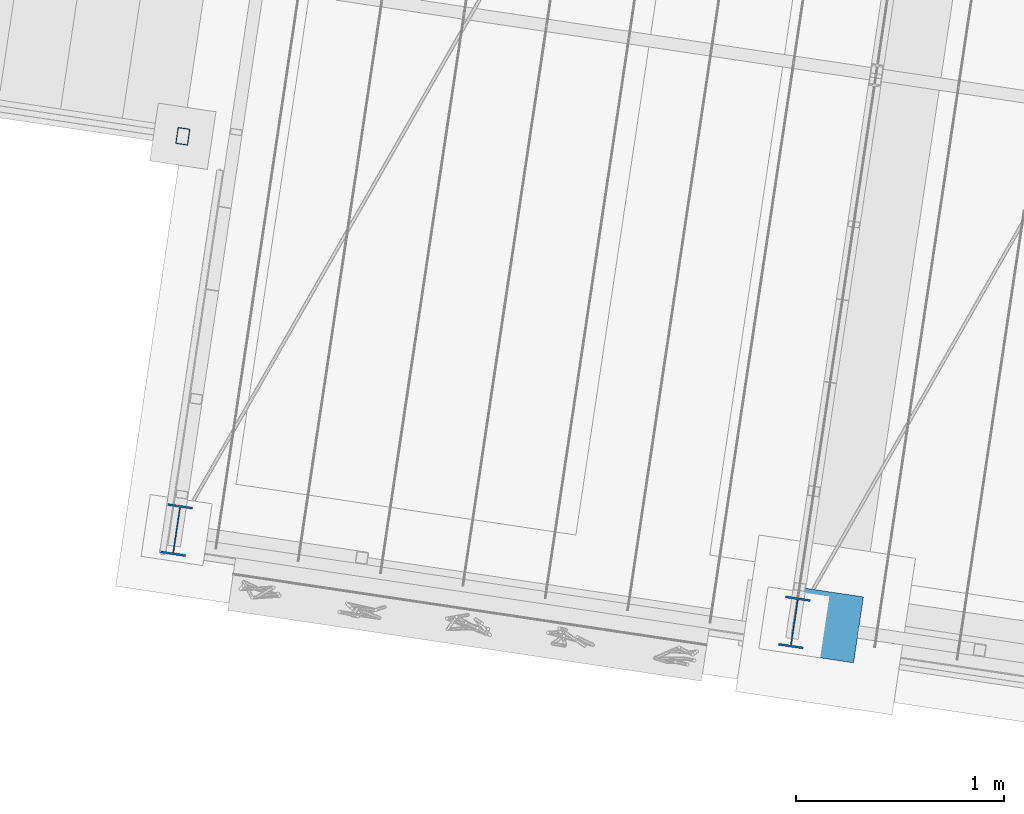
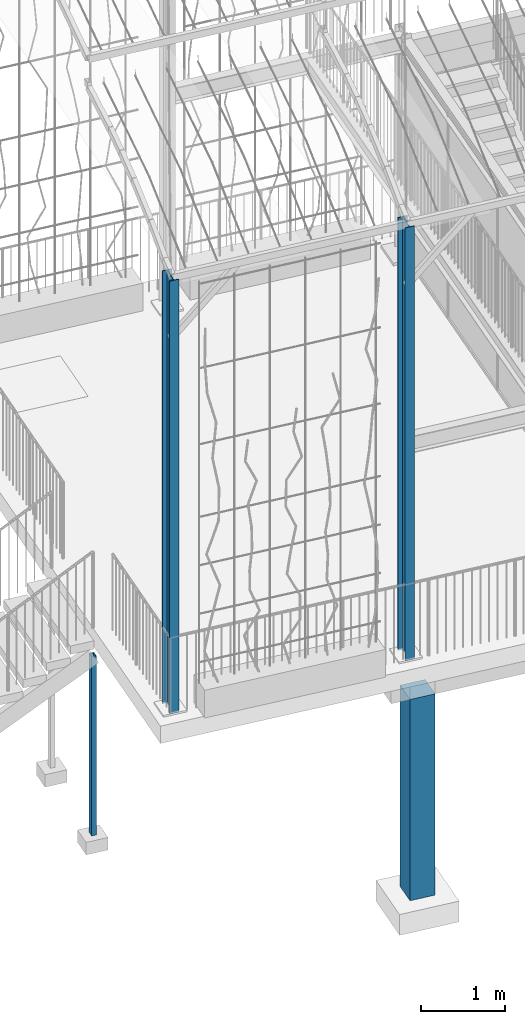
# One storey, part 2 of 143: 4 columns, 3 elements without a shape of their own.
"""IFC4 building model written with IfcOpenShell, lengths in metres."""

from ifc_helpers import new_model, si_unit, direction, frame, origin_with_axes, place, context, subcontext, project, spatial, polyline, hollow_rectangle, i_section, outline, extrude, material, material_profile, profile_set, profile_usage, type_object, element, aggregate, save


model = new_model("IFC4")

# Units and contexts
model_context = context("Model", 3, precision=1e-05, world=origin_with_axes(), true_north=direction((0.0, 1.0)))
body_context = subcontext(model_context, "Body", "Model", "MODEL_VIEW")
ifc_project = project(units=[si_unit("VOLUMEUNIT", "CUBIC_METRE"), si_unit("LENGTHUNIT", "METRE"), si_unit("AREAUNIT", "SQUARE_METRE")], contexts=[model_context])

# Site, building, storey
site_placement = place(None, origin_with_axes())
site = spatial("IfcSite", under=ifc_project, at=site_placement, Name="Lares · Rua das Mercês · artigo 4771")
building_placement = place(site_placement, frame((15.0, 9.7, 15.8), z_axis=(0.0, 0.0, 1.0), x_axis=(0.989015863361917, -0.147809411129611, 0.0)))
building = spatial("IfcBuilding", under=site, at=building_placement, Name="Casa Sobreposta")
storey_placement = place(building_placement, origin_with_axes())
storey = spatial("IfcBuildingStorey", under=building, at=storey_placement, Name="00 · Habitação e estacionamento", Elevation=15.8)

# Assembly, columns
assembly_1_placement = place(storey_placement, origin_with_axes())
assembly_1 = element("IfcElementAssembly", 1, at=assembly_1_placement, inside=storey, Name="Pérgola · prolongamento da estufa 6 m", ObjectType="PERGOLA_GREENHOUSE_EXTENSION", PredefinedType="USERDEFINED")
ifc_material_1 = material(Name="Aço pintado / Stahl lackiert", Category="steel")
ifc_material_profile_1 = material_profile(ifc_material_1, i_section(OverallWidth=0.12, OverallDepth=0.24, WebThickness=0.0062, FlangeThickness=0.0098))
ifc_profile_set_1 = profile_set([ifc_material_profile_1], Name="IPE240")
ifc_profile_usage_1 = profile_usage(ifc_profile_set_1)
column_type_1 = type_object("IfcColumnType", Name="IPE240 / steel", PredefinedType="NOTDEFINED", material=ifc_profile_set_1)
column_1_placement = place(assembly_1_placement, frame((-6.0, -1.44, -0.04), z_axis=(0.0, 0.0, 1.0), x_axis=(1.0, 0.0, 0.0)))
column_1 = element("IfcColumn", 2, at=column_1_placement, type_object=column_type_1, material=ifc_profile_usage_1, Name="Pérgola · pilar de duplo pé-direito", context=body_context, shape_type="SweptSolid", body=[
    extrude(i_section(OverallWidth=0.12, OverallDepth=0.24, WebThickness=0.0062, FlangeThickness=0.0098), origin_with_axes(), (0.0, 0.0, 1.0), 6.26),
])
ifc_profile_usage_2 = profile_usage(ifc_profile_set_1)
column_2_placement = place(assembly_1_placement, frame((-3.0, -1.44, -0.04), z_axis=(0.0, 0.0, 1.0), x_axis=(1.0, 0.0, 0.0)))
column_2 = element("IfcColumn", 3, at=column_2_placement, type_object=column_type_1, material=ifc_profile_usage_2, Name="Pérgola · pilar de duplo pé-direito", context=body_context, shape_type="SweptSolid", body=[
    extrude(i_section(OverallWidth=0.12, OverallDepth=0.24, WebThickness=0.0062, FlangeThickness=0.0098), origin_with_axes(), (0.0, 0.0, 1.0), 6.26),
])
aggregate(assembly_1, [column_1, column_2])

# Stair, column
stair_placement = place(storey_placement, origin_with_axes())
stair = element("IfcStair", 4, at=stair_placement, inside=storey, Name="Jardim · escada pela fachada poente", PredefinedType="STRAIGHT_RUN_STAIR")
ifc_material_profile_2 = material_profile(ifc_material_1, hollow_rectangle(XDim=0.06, YDim=0.08, WallThickness=0.004))
ifc_profile_set_2 = profile_set([ifc_material_profile_2], Name="RHS80x60x4")
ifc_profile_usage_3 = profile_usage(ifc_profile_set_2)
column_type_2 = type_object("IfcColumnType", Name="RHS80x60x4 / steel", PredefinedType="NOTDEFINED", material=ifc_profile_set_2)
column_3_placement = place(stair_placement, frame((-6.25, 0.435, -3.01767746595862), z_axis=(0.0, 0.0, 1.0), x_axis=(1.0, 0.0, 0.0)))
column_3 = element("IfcColumn", 5, at=column_3_placement, type_object=column_type_2, material=ifc_profile_usage_3, Name="Jardim · montante", context=body_context, shape_type="SweptSolid", body=[
    extrude(hollow_rectangle(XDim=0.06, YDim=0.08, WallThickness=0.004), origin_with_axes(), (0.0, 0.0, 1.0), 2.59136167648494),
])
aggregate(stair, [column_3])

# Assembly, column
assembly_2_placement = place(storey_placement, origin_with_axes())
assembly_2 = element("IfcElementAssembly", 6, at=assembly_2_placement, inside=storey, Name="Pódio · terraço, casa térrea e cisterna", ObjectType="CISTERN_PODIUM", PredefinedType="USERDEFINED")
ifc_material_2 = material(Name="Betão armado / Stahlbeton", Category="concrete")
column_4_placement = place(assembly_2_placement, frame((0.0, 0.0, -3.5), z_axis=(0.0, 0.0, 1.0), x_axis=(1.0, 0.0, 0.0)))
column_4 = element("IfcColumn", 7, at=column_4_placement, material=ifc_material_2, Name="Pódio suspenso · apoio sobre o terreno", context=body_context, shape_type="SweptSolid", body=[
    extrude(outline(polyline([(-2.69, -1.59), (-2.69, -1.27), (-3.01, -1.27), (-3.01, -1.59), (-2.69, -1.59)])), origin_with_axes(), (0.0, 0.0, 1.0), 2.91),
])
aggregate(assembly_2, [column_4])

save(model, "model.ifc")
